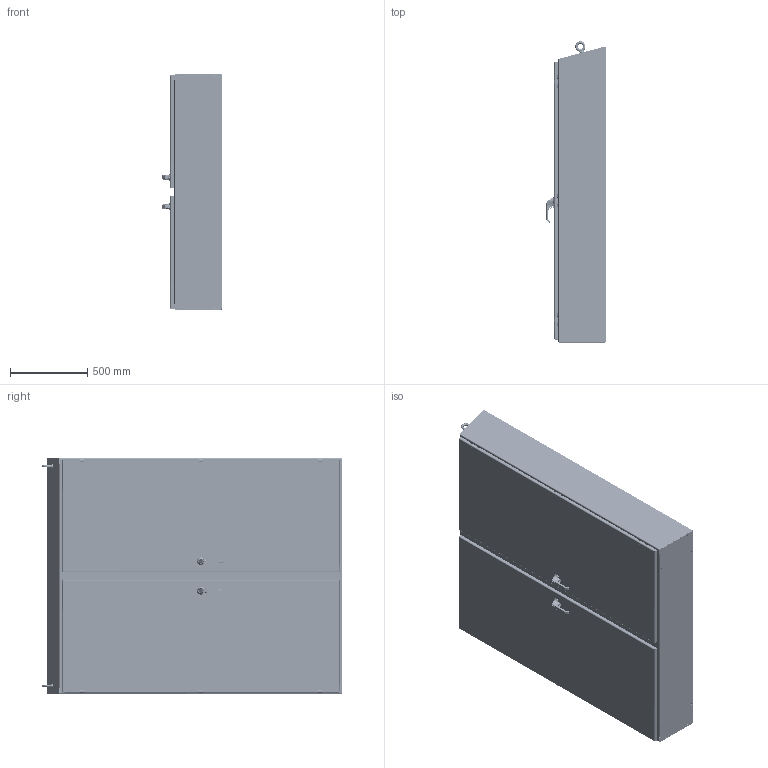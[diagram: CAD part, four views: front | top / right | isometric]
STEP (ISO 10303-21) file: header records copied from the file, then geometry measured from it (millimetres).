
FILE_DESCRIPTION((''),'2;1');
FILE_NAME('MODEL-150_ASM','2021-06-28T11:23:35',('johnh'),('SAGINAW CONTROL & ENGINEERING'),'CREO PARAMETRIC BY PTC INC, 2017260','CREO PARAMETRIC BY PTC INC, 2017260','');
FILE_SCHEMA(('AUTOMOTIVE_DESIGN { 1 0 10303 214 1 1 1 1 }'));
Length unit declared in the file: inch
Products named in the file (77): MODEL-150-BTM; MODEL-150-RS; MODEL-150-LS; MODEL-150-BCK; MODEL-150-TP; MODEL-150-RH-DR; 100837; 111267; 100882; 126937_HANDLE; 126937_HANDLE_INSERT; 126937_SHAFT_CAM; 126937_ADAPTER_CAM; 126937_NUT_CAM; 126937_BASE; 126937_PADLOCK_CATCH; 126937_SCREW_SMALL; 126937_NUT_MOUNTING_SMALL; 126937_NUT_MOUNTING_LARGE; 126937_ASM; 102236; 100030; 102236_ASM; MODEL-150-ROD-UPR-RH; 128146; 128145; 128144; 102482; MODEL-150-ROD-UPR-RH_ASM; 128143; 112504; MODEL-150-ROD-LWR-RH; MODEL-150-ROD-LWR-RH_ASM; MODEL-150-PR-GSKT-RH; 128258; 126397; 128258_ASM; 126395; 102483; 101383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
Assembly tree (190 placements, depth 4):
  MODEL-150_ASM
    MODEL-150-BTM
    MODEL-150-RS
    MODEL-150-LS
    MODEL-150-BCK
    MODEL-150-TP
    MODEL-150-RH-DOOR-ASSY_ASM
      MODEL-150-RH-DR
      100837  x5
      111267
      100882  x10
      126937_ASM
        126937_HANDLE
        126937_HANDLE_INSERT
        126937_SHAFT_CAM
        126937_ADAPTER_CAM
        126937_NUT_CAM
        126937_BASE
        126937_PADLOCK_CATCH
        126937_SCREW_SMALL
        126937_NUT_MOUNTING_SMALL
        126937_NUT_MOUNTING_LARGE
      102236_ASM
        102236
        100030  x2
      MODEL-150-ROD-UPR-RH_ASM
        MODEL-150-ROD-UPR-RH
        128146
        128145
        128144
        102482  x2
      128143  x2
      112504  x2
      MODEL-150-ROD-LWR-RH_ASM
        MODEL-150-ROD-LWR-RH
        128146
        128145
        128144
        102482  x2
      MODEL-150-PR-GSKT-RH
      128258_ASM  x3
        128258
        126397
      126395  x3
      102483  x3
      101383_ASM  x3
        101383
        101383-STUD
      101221  x3
    MODEL-150-LH-DOOR-ASSY_ASM
      MODEL-150-LH-DR
      100837  x3
      126937_ASM
        126937_HANDLE
        126937_HANDLE_INSERT
        126937_SHAFT_CAM
        126937_ADAPTER_CAM
        126937_NUT_CAM
        126937_BASE
        126937_PADLOCK_CATCH
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Bounding box: 382.17 x 1943.26 x 1524 mm (x, y, z)
Volume: 33961558.8 mm3; surface area: 24187985.1 mm2
Topology: 213 solids, 213 shells, 17396 faces, 44881 edges, 27913 vertices
Faces by surface type: plane 6149, cylinder 4572, bspline 3889, cone 1160, torus 1122, sphere 504
Entity records: 279576 total; most frequent: CARTESIAN_POINT 90467, ORIENTED_EDGE 26768, DIRECTION 25072, PRESENTATION_STYLE_ASSIGNMENT 14143, STYLED_ITEM 13775, EDGE_CURVE 13384, CURVE_STYLE 13372, AXIS2_PLACEMENT_3D 9256
